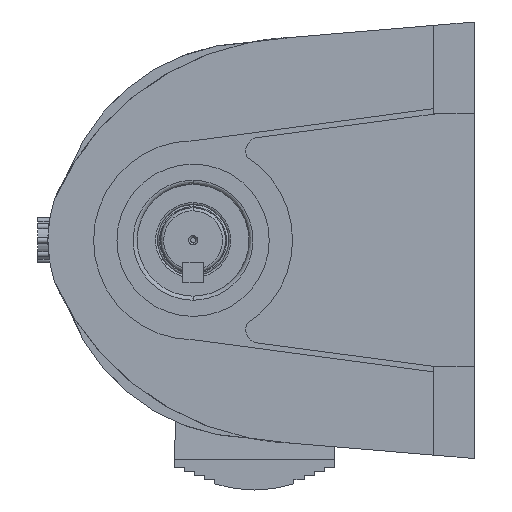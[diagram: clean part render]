
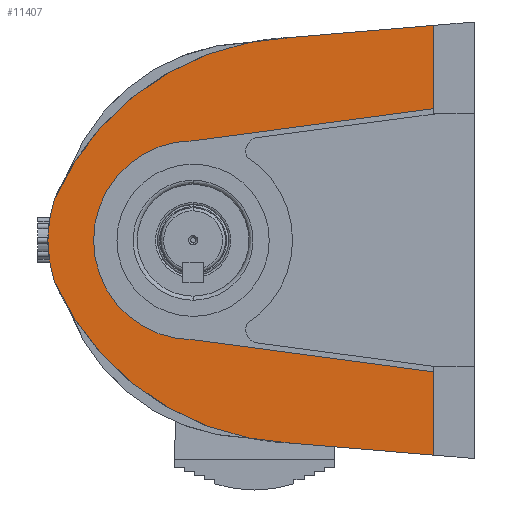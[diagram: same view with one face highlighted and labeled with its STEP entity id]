
A CAD part, left-side view. The second image highlights one B-rep face of the part: STEP entity #11407.
In plain terms, the highlighted planar face has unit normal (-1, 0, 0).
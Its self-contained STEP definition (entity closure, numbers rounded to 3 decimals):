
#136 = CARTESIAN_POINT ( 'NONE',  ( 13., 20., 64.829 ) ) ;
#898 = DIRECTION ( 'NONE',  ( 0., -0.996, -0.084 ) ) ;
#1036 = CARTESIAN_POINT ( 'NONE',  ( 13., 0., -107.5 ) ) ;
#1057 = AXIS2_PLACEMENT_3D ( 'NONE', #28683, #28480, #28446 ) ;
#1356 = VECTOR ( 'NONE', #4064, 1000. ) ;
#1390 = LINE ( 'NONE', #4148, #1356 ) ;
#1881 = DIRECTION ( 'NONE',  ( 0., 0.996, -0.084 ) ) ;
#2663 = ORIENTED_EDGE ( 'NONE', *, *, #30393, .T. ) ;
#2788 = CARTESIAN_POINT ( 'NONE',  ( 13., 0., 107.5 ) ) ;
#3190 = ORIENTED_EDGE ( 'NONE', *, *, #27828, .F. ) ;
#4064 = DIRECTION ( 'NONE',  ( 0., -0.991, -0.132 ) ) ;
#4148 = CARTESIAN_POINT ( 'NONE',  ( 13., 138.5, -49. ) ) ;
#5253 = EDGE_LOOP ( 'NONE', ( #17547, #10205, #2663, #3190, #28154, #20708, #24999, #13303, #5888, #32013 ) ) ;
#5888 = ORIENTED_EDGE ( 'NONE', *, *, #31181, .T. ) ;
#5983 = FACE_OUTER_BOUND ( 'NONE', #5253, .T. ) ;
#6134 = CIRCLE ( 'NONE', #31591, 49. ) ;
#6172 = CARTESIAN_POINT ( 'NONE',  ( 13., 20., -105.822 ) ) ;
#6885 = VERTEX_POINT ( 'NONE', #19055 ) ;
#7026 = EDGE_CURVE ( 'NONE', #15660, #14582, #6134, .T. ) ;
#7355 = CARTESIAN_POINT ( 'NONE',  ( 13., 89.685, 99.974 ) ) ;
#7678 = EDGE_CURVE ( 'NONE', #14582, #12407, #1390, .T. ) ;
#8130 = EDGE_CURVE ( 'NONE', #18096, #15660, #28578, .T. ) ;
#8575 = CARTESIAN_POINT ( 'NONE',  ( 13., 84.313, 33.738 ) ) ;
#9157 = LINE ( 'NONE', #2788, #27794 ) ;
#9778 = VERTEX_POINT ( 'NONE', #12225 ) ;
#10205 = ORIENTED_EDGE ( 'NONE', *, *, #29892, .F. ) ;
#11181 = LINE ( 'NONE', #15335, #17140 ) ;
#11228 = DIRECTION ( 'NONE',  ( 0., 0., 1. ) ) ;
#11269 = VERTEX_POINT ( 'NONE', #30960 ) ;
#11407 = ADVANCED_FACE ( 'NONE', ( #5983 ), #28547, .F. ) ;
#12107 = VECTOR ( 'NONE', #24268, 1000. ) ;
#12225 = CARTESIAN_POINT ( 'NONE',  ( 13., 206.78, -20.204 ) ) ;
#12407 = VERTEX_POINT ( 'NONE', #14485 ) ;
#12812 = VECTOR ( 'NONE', #898, 1000. ) ;
#12995 = DIRECTION ( 'NONE',  ( 0., 0., 1. ) ) ;
#13042 = DIRECTION ( 'NONE',  ( 1., 0., 0. ) ) ;
#13082 = CARTESIAN_POINT ( 'NONE',  ( 13., 145., 0. ) ) ;
#13303 = ORIENTED_EDGE ( 'NONE', *, *, #30839, .F. ) ;
#13653 = CIRCLE ( 'NONE', #17528, 133.82 ) ;
#14485 = CARTESIAN_POINT ( 'NONE',  ( 13., 20., -64.829 ) ) ;
#14507 = AXIS2_PLACEMENT_3D ( 'NONE', #25168, #25124, #25116 ) ;
#14582 = VERTEX_POINT ( 'NONE', #17695 ) ;
#14898 = DIRECTION ( 'NONE',  ( 0., 0., -1. ) ) ;
#14968 = DIRECTION ( 'NONE',  ( -1., 0., 0. ) ) ;
#14976 = CARTESIAN_POINT ( 'NONE',  ( 13., 138.5, 0. ) ) ;
#15335 = CARTESIAN_POINT ( 'NONE',  ( 13., 20., 0. ) ) ;
#15588 = DIRECTION ( 'NONE',  ( 0., 0., -1. ) ) ;
#15624 = CIRCLE ( 'NONE', #21318, 65. ) ;
#15660 = VERTEX_POINT ( 'NONE', #29627 ) ;
#16102 = VERTEX_POINT ( 'NONE', #7355 ) ;
#16752 = VERTEX_POINT ( 'NONE', #24865 ) ;
#17140 = VECTOR ( 'NONE', #15588, 1000. ) ;
#17528 = AXIS2_PLACEMENT_3D ( 'NONE', #8575, #28110, #11228 ) ;
#17547 = ORIENTED_EDGE ( 'NONE', *, *, #29609, .F. ) ;
#17695 = CARTESIAN_POINT ( 'NONE',  ( 13., 138.5, -49. ) ) ;
#18096 = VERTEX_POINT ( 'NONE', #136 ) ;
#19055 = CARTESIAN_POINT ( 'NONE',  ( 13., 206.78, 20.204 ) ) ;
#19542 = LINE ( 'NONE', #1036, #12812 ) ;
#20459 = DIRECTION ( 'NONE',  ( 0., 0.991, -0.132 ) ) ;
#20708 = ORIENTED_EDGE ( 'NONE', *, *, #7026, .F. ) ;
#21022 = CARTESIAN_POINT ( 'NONE',  ( 13., 20., 64.829 ) ) ;
#21318 = AXIS2_PLACEMENT_3D ( 'NONE', #13082, #13042, #12995 ) ;
#23987 = LINE ( 'NONE', #24271, #12107 ) ;
#24268 = DIRECTION ( 'NONE',  ( 0., 0., -1. ) ) ;
#24271 = CARTESIAN_POINT ( 'NONE',  ( 13., 20., 0. ) ) ;
#24754 = VERTEX_POINT ( 'NONE', #6172 ) ;
#24865 = CARTESIAN_POINT ( 'NONE',  ( 13., 89.685, -99.974 ) ) ;
#24992 = CIRCLE ( 'NONE', #14507, 133.82 ) ;
#24999 = ORIENTED_EDGE ( 'NONE', *, *, #8130, .F. ) ;
#25116 = DIRECTION ( 'NONE',  ( 0., 0., 1. ) ) ;
#25124 = DIRECTION ( 'NONE',  ( 1., 0., 0. ) ) ;
#25168 = CARTESIAN_POINT ( 'NONE',  ( 13., 84.313, -33.738 ) ) ;
#27794 = VECTOR ( 'NONE', #1881, 1000. ) ;
#27828 = EDGE_CURVE ( 'NONE', #12407, #24754, #23987, .T. ) ;
#28110 = DIRECTION ( 'NONE',  ( 1., 0., 0. ) ) ;
#28154 = ORIENTED_EDGE ( 'NONE', *, *, #7678, .F. ) ;
#28446 = DIRECTION ( 'NONE',  ( 0., 0., -1. ) ) ;
#28480 = DIRECTION ( 'NONE',  ( 1., 0., 0. ) ) ;
#28489 = VECTOR ( 'NONE', #20459, 1000. ) ;
#28547 = PLANE ( 'NONE',  #1057 ) ;
#28578 = LINE ( 'NONE', #21022, #28489 ) ;
#28683 = CARTESIAN_POINT ( 'NONE',  ( 13., 0., 0. ) ) ;
#29609 = EDGE_CURVE ( 'NONE', #9778, #6885, #15624, .T. ) ;
#29627 = CARTESIAN_POINT ( 'NONE',  ( 13., 138.5, 49. ) ) ;
#29892 = EDGE_CURVE ( 'NONE', #16752, #9778, #13653, .T. ) ;
#30393 = EDGE_CURVE ( 'NONE', #16752, #24754, #19542, .T. ) ;
#30839 = EDGE_CURVE ( 'NONE', #11269, #18096, #11181, .T. ) ;
#30960 = CARTESIAN_POINT ( 'NONE',  ( 13., 20., 105.822 ) ) ;
#31181 = EDGE_CURVE ( 'NONE', #11269, #16102, #9157, .T. ) ;
#31457 = EDGE_CURVE ( 'NONE', #6885, #16102, #24992, .T. ) ;
#31591 = AXIS2_PLACEMENT_3D ( 'NONE', #14976, #14968, #14898 ) ;
#32013 = ORIENTED_EDGE ( 'NONE', *, *, #31457, .F. ) ;
